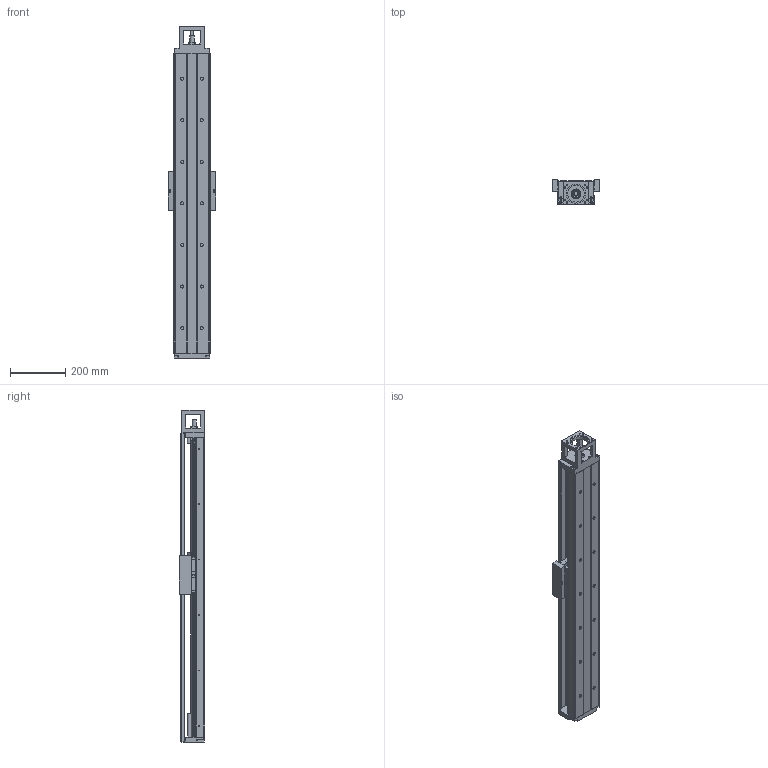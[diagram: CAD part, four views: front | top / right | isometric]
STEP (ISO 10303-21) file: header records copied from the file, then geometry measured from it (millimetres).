
FILE_DESCRIPTION(/* description */ (''),/* implementation_level */ '2;1');
FILE_NAME(/* name */ 'TKK130-1080A1F0C_stp.stp',/* time_stamp */ '2017-08-18T10:17:45+08:00',/* author */ (''),/* organization */ (''),/* preprocessor_version */ 'ST-DEVELOPER v15',/* originating_system */ 'SIEMENS PLM Software NX 8.5',/* authorisation */ '');
FILE_SCHEMA (('AUTOMOTIVE_DESIGN { 1 0 10303 214 3 1 1 1 }'));
Length unit declared in the file: millimetre
Products named in the file (3): 022; 011; TKK130-1080A1F0C_stp
Assembly tree (2 placements, depth 2):
  TKK130-1080A1F0C_stp
    011
    022
Bounding box: 170 x 92 x 1198 mm (x, y, z)
Volume: 5511052.4 mm3; surface area: 1166198.6 mm2
Topology: 2 solids, 46 shells, 1133 faces, 2966 edges, 1916 vertices
Faces by surface type: plane 622, cylinder 340, cone 131, extrusion 33, bspline 6, torus 1
Full cylindrical faces by diameter (mm): 2.1 x12, 2.5 x8, 3.3 x60, 4.5 x20, 5 x23, 6.6 x10, 6.8 x12, 7 x2, 8 x16, 8.5 x4, 9 x8, 11 x22, 12 x4, 15 x1, 16.3 x1, 17 x18, 17.5 x4, 25 x1, 35 x2, 40 x3, 60.03 x1, 70.03 x1
Entity records: 33654 total; most frequent: CARTESIAN_POINT 7122, DIRECTION 5205, ORIENTED_EDGE 4758, EDGE_CURVE 2379, AXIS2_PLACEMENT_3D 1843, VERTEX_POINT 1796, EDGE_LOOP 1599, VECTOR 1519
